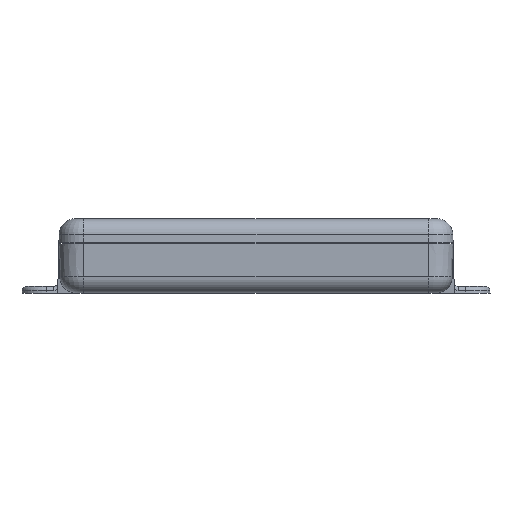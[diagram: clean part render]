
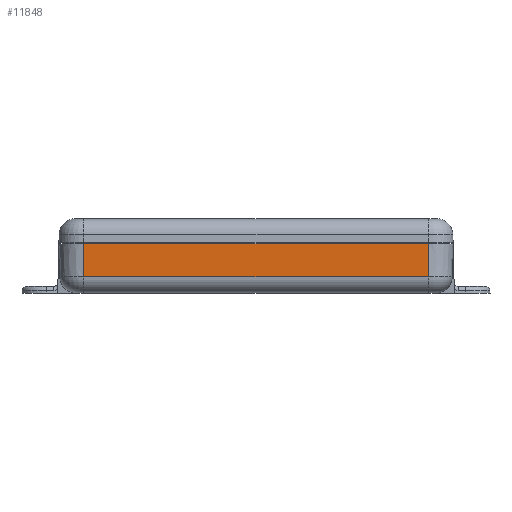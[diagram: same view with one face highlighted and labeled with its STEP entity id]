
A CAD part, top view. The second image highlights one B-rep face of the part: STEP entity #11848.
In plain terms, the highlighted planar face has unit normal (0, -0.026, 1).
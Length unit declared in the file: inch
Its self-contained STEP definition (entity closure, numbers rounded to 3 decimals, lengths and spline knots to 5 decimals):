
#503 = VERTEX_POINT ( 'NONE', #12186 ) ;
#832 = DIRECTION ( 'NONE',  ( 0., 1., 0.026 ) ) ;
#916 = LINE ( 'NONE', #3033, #9464 ) ;
#940 = PLANE ( 'NONE',  #2164 ) ;
#1676 = EDGE_CURVE ( 'Edge7', #5540, #13735, #7911, .T. ) ;
#2108 = CARTESIAN_POINT ( 'NONE',  ( -2.62798, 0., 2.002 ) ) ;
#2164 = AXIS2_PLACEMENT_3D ( 'NONE', #5458, #14533, #11223 ) ;
#3033 = CARTESIAN_POINT ( 'NONE',  ( -2.62798, 0., 2.002 ) ) ;
#3050 = EDGE_CURVE ( 'Edge5', #8672, #503, #916, .T. ) ;
#3299 = LINE ( 'NONE', #2108, #11590 ) ;
#4549 = ORIENTED_EDGE ( 'NONE', *, *, #1676, .T. ) ;
#5134 = CARTESIAN_POINT ( 'NONE',  ( 2.62798, 0., 2.002 ) ) ;
#5347 = ORIENTED_EDGE ( 'NONE', *, *, #12923, .T. ) ;
#5458 = CARTESIAN_POINT ( 'NONE',  ( -2.62798, 0., 2.002 ) ) ;
#5540 = VERTEX_POINT ( 'NONE', #12827 ) ;
#5543 = FACE_OUTER_BOUND ( 'NONE', #14114, .T. ) ;
#6172 = LINE ( 'NONE', #5134, #12622 ) ;
#7847 = DIRECTION ( 'NONE',  ( 0., 1., 0.026 ) ) ;
#7911 = LINE ( 'NONE', #12426, #10883 ) ;
#8672 = VERTEX_POINT ( 'NONE', #9530 ) ;
#8904 = DIRECTION ( 'NONE',  ( 1., 0., 0. ) ) ;
#9464 = VECTOR ( 'NONE', #8904, 39.37008 ) ;
#9530 = CARTESIAN_POINT ( 'NONE',  ( -2.62798, 0., 2.002 ) ) ;
#10534 = DIRECTION ( 'NONE',  ( 1., 0., 0. ) ) ;
#10883 = VECTOR ( 'NONE', #10534, 39.37008 ) ;
#11223 = DIRECTION ( 'NONE',  ( 0., -1., -0.026 ) ) ;
#11590 = VECTOR ( 'NONE', #7847, 39.37008 ) ;
#11848 = ADVANCED_FACE ( 'Face1', ( #5543 ), #940, .T. ) ;
#12186 = CARTESIAN_POINT ( 'NONE',  ( 2.62798, 0., 2.002 ) ) ;
#12275 = ORIENTED_EDGE ( 'NONE', *, *, #12643, .F. ) ;
#12426 = CARTESIAN_POINT ( 'NONE',  ( -2.62798, -0.5069, 1.98872 ) ) ;
#12622 = VECTOR ( 'NONE', #832, 39.37008 ) ;
#12643 = EDGE_CURVE ( 'Edge8', #5540, #8672, #3299, .T. ) ;
#12827 = CARTESIAN_POINT ( 'NONE',  ( -2.62798, -0.5069, 1.98872 ) ) ;
#12923 = EDGE_CURVE ( 'NONE', #13735, #503, #6172, .T. ) ;
#13011 = ORIENTED_EDGE ( 'NONE', *, *, #3050, .F. ) ;
#13735 = VERTEX_POINT ( 'NONE', #14557 ) ;
#14114 = EDGE_LOOP ( 'NONE', ( #12275, #4549, #5347, #13011 ) ) ;
#14533 = DIRECTION ( 'NONE',  ( 0., -0.026, 1. ) ) ;
#14557 = CARTESIAN_POINT ( 'NONE',  ( 2.62798, -0.5069, 1.98872 ) ) ;
